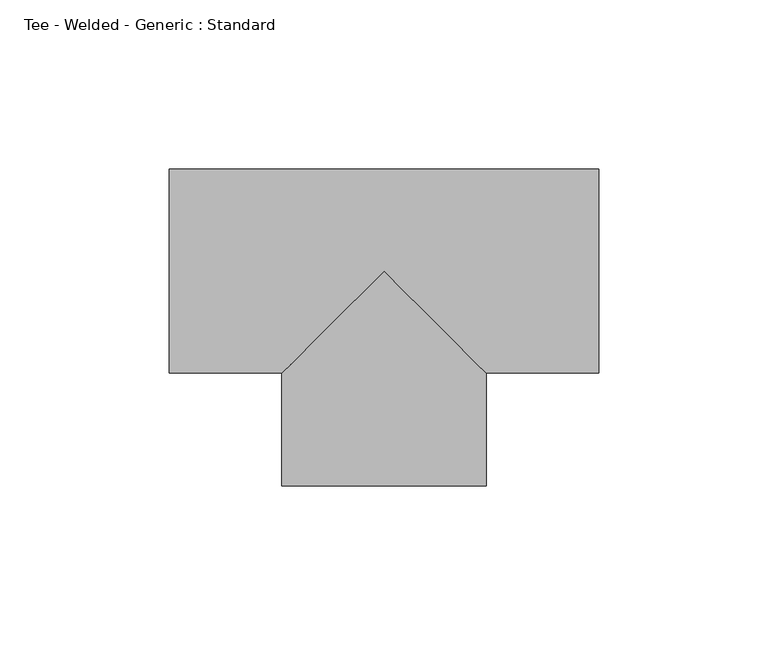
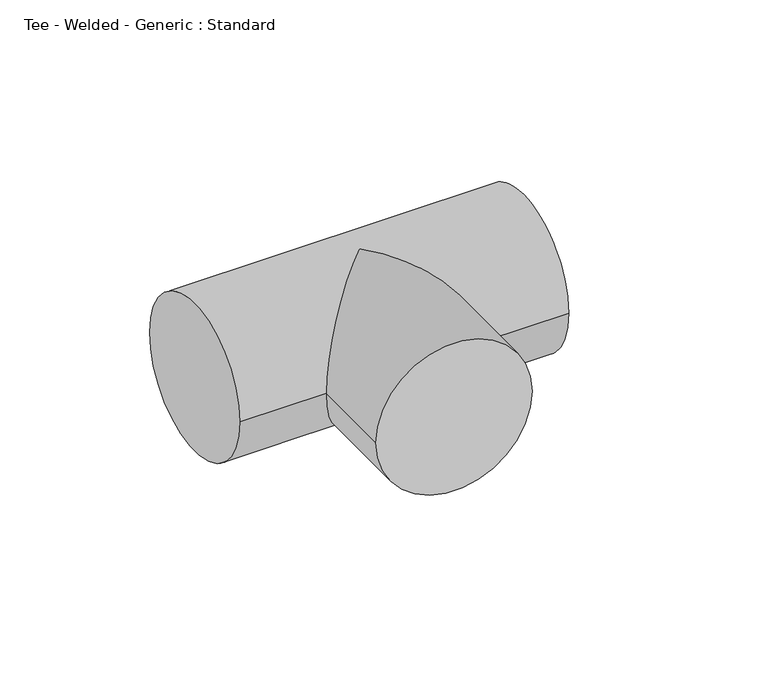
"""IFC4 building model written with IfcOpenShell, lengths in millimetres: pipe fitting geometry, Tee - Welded - Generic : Standard."""

import ifcopenshell
import ifcopenshell.guid

model = None  # the IFC model being written
_history = None  # IfcOwnerHistory: only IFC2X3 demands one
_inside = {}  # id of a spatial element -> (the spatial element, [elements in it])
_under = {}  # id of a project, library or spatial element -> (it, [spatial elements below it])
_declared = {}  # id of a project -> (the project, [libraries it declares])
_typed = {}  # id of a type object -> (the type object, [elements of that type])
_made_of = {}  # id of a material, layer set ... -> (it, [elements and type objects made of it])


def new_model(schema):
    """Start an empty IFC model of exactly this schema.

    Asked for "IFC4X3", IfcOpenShell would pick the latest addendum, in which some entities
    have other attributes; the version numbers below select the first issue.
    IFC2X3 requires an IfcOwnerHistory on every rooted entity: one is made here for all.
    """
    global model, _history
    if schema == "IFC4X3":
        model = ifcopenshell.file(schema_version=(4, 3, 0, 0))
    else:
        model = ifcopenshell.file(schema=schema)
    _inside.clear()
    _under.clear()
    _declared.clear()
    _typed.clear()
    _made_of.clear()
    _history = None
    if model.schema == "IFC2X3":
        org = make("IfcOrganization", Name="unknown")
        user = make(
            "IfcPersonAndOrganization",
            ThePerson=make("IfcPerson", FamilyName="unknown"),
            TheOrganization=org,
        )
        app = make(
            "IfcApplication",
            ApplicationDeveloper=org,
            Version="unknown",
            ApplicationFullName="unknown",
            ApplicationIdentifier="unknown",
        )
        _history = make(
            "IfcOwnerHistory",
            OwningUser=user,
            OwningApplication=app,
            ChangeAction="ADDED",
            CreationDate=0,
        )
    return model


def make(cls, **values):
    """One entity of the class cls with the attributes given. An attribute that is None is left unset."""
    return model.create_entity(
        cls, **{name: value for name, value in values.items() if value is not None}
    )


def rooted(cls, **values):
    """An entity with a GlobalId (a new one), such as an element, a storey or a relation."""
    return make(cls, GlobalId=ifcopenshell.guid.new(), OwnerHistory=_history, **values)


def si_unit(unit_type, name, prefix=None):
    """IfcSIUnit, for example si_unit("LENGTHUNIT", "METRE", prefix="MILLI")."""
    return make("IfcSIUnit", UnitType=unit_type, Prefix=prefix, Name=name)


def assignment(units):
    """IfcUnitAssignment: the units of a project."""
    return None if units is None else make("IfcUnitAssignment", Units=units)


def point(xyz):
    """IfcCartesianPoint."""
    return None if xyz is None else make("IfcCartesianPoint", Coordinates=xyz)


def direction(xyz):
    """IfcDirection."""
    return None if xyz is None else make("IfcDirection", DirectionRatios=xyz)


def frame(location, z_axis=None, x_axis=None):
    """IfcAxis2Placement3D, a coordinate frame: its origin and axes. An axis left out is left unset."""
    return make(
        "IfcAxis2Placement3D",
        Location=point(location),
        Axis=direction(z_axis),
        RefDirection=direction(x_axis),
    )


def origin():
    """The frame at (0, 0, 0) with its axes left unset."""
    return frame((0.0, 0.0, 0.0))


def place(relative_to, where):
    """IfcLocalPlacement: puts the frame where relative to a parent placement (None: the world)."""
    return make(
        "IfcLocalPlacement", PlacementRelTo=relative_to, RelativePlacement=where
    )


def context(
    kind, dimensions, precision=None, world=None, true_north=None, identifier=None
):
    """IfcGeometricRepresentationContext, for example the 3D "Model" context."""
    return make(
        "IfcGeometricRepresentationContext",
        ContextIdentifier=identifier,
        ContextType=kind,
        CoordinateSpaceDimension=dimensions,
        Precision=precision,
        WorldCoordinateSystem=world,
        TrueNorth=true_north,
    )


def project(units=None, contexts=None):
    """IfcProject with its units and contexts."""
    return rooted(
        "IfcProject",
        Name="project",
        RepresentationContexts=contexts,
        UnitsInContext=assignment(units),
    )


def spatial(cls, under=None, at=None, **own):
    """A site, building, storey or space (cls), placed at a placement, below another one or the project."""
    s = rooted(cls, ObjectPlacement=at, **own)
    if under is not None:
        _under.setdefault(under.id(), (under, []))[1].append(s)
    return s


def circle_curve(where, radius):
    """IfcCircle in the frame where."""
    return make("IfcCircle", Position=where, Radius=radius)


def ellipse_curve(where, semi_axis1, semi_axis2):
    """IfcEllipse in the frame where."""
    return make(
        "IfcEllipse", Position=where, SemiAxis1=semi_axis1, SemiAxis2=semi_axis2
    )


def shape(context_of_items, identifier, shape_type, items):
    """IfcShapeRepresentation: the items that make up one representation, for example the "Body"."""
    return make(
        "IfcShapeRepresentation",
        ContextOfItems=context_of_items,
        RepresentationIdentifier=identifier,
        RepresentationType=shape_type,
        Items=items,
    )


def source(mapping_origin, context_of_items, identifier, shape_type, items):
    """IfcRepresentationMap: a shape defined once, which mapped items show again and again."""
    return make(
        "IfcRepresentationMap",
        MappingOrigin=mapping_origin,
        MappedRepresentation=shape(context_of_items, identifier, shape_type, items),
    )


def transform(
    local_origin,
    x_axis=None,
    y_axis=None,
    z_axis=None,
    scale=None,
    scale2=None,
    scale3=None,
    uniform=True,
):
    """IfcCartesianTransformationOperator3D, or its non-uniform kind. x_axis, y_axis, z_axis: its Axis1, 2, 3."""
    if uniform:
        return make(
            "IfcCartesianTransformationOperator3D",
            Axis1=direction(x_axis),
            Axis2=direction(y_axis),
            LocalOrigin=point(local_origin),
            Scale=scale,
            Axis3=direction(z_axis),
        )
    return make(
        "IfcCartesianTransformationOperator3DnonUniform",
        Axis1=direction(x_axis),
        Axis2=direction(y_axis),
        LocalOrigin=point(local_origin),
        Scale=scale,
        Axis3=direction(z_axis),
        Scale2=scale2,
        Scale3=scale3,
    )


def mapped(mapping_source, mapping_target):
    """IfcMappedItem: shows the shape of a source again, moved by a transform."""
    return make(
        "IfcMappedItem", MappingSource=mapping_source, MappingTarget=mapping_target
    )


def made_of(thing, what):
    """Note that an element or type object is made of a material, layer set ...; save() writes the relation."""
    if what is not None:
        _made_of.setdefault(what.id(), (what, []))[1].append(thing)
    return thing


def element(
    cls,
    number,
    at=None,
    inside=None,
    cuts=None,
    type_object=None,
    material=None,
    context=None,
    identifier="Body",
    shape_type=None,
    held_by="IfcProductDefinitionShape",
    body=None,
    shapes=None,
    **own,
):
    """One element of the class cls, such as IfcWall. Its Tag is "e" and its number.

    at: its placement. inside: the storey or other place that contains it. cuts: it is an
    opening in that element (IfcRelVoidsElement). A single representation is given by context,
    identifier, shape_type and body (its items); several are given by shapes. held_by: the class
    of the entity that holds the representations. save() writes the other relations.
    """
    e = rooted(cls, Tag="e%d" % number, ObjectPlacement=at, **own)
    if body is not None:
        shapes = [shape(context, identifier, shape_type, body)]
    if shapes is not None:
        e.Representation = make(held_by, Representations=shapes)
    if inside is not None:
        _inside.setdefault(inside.id(), (inside, []))[1].append(e)
    if cuts is not None:
        rooted(
            "IfcRelVoidsElement", RelatingBuildingElement=cuts, RelatedOpeningElement=e
        )
    if type_object is not None:
        _typed.setdefault(type_object.id(), (type_object, []))[1].append(e)
    return made_of(e, material)


def aggregate(whole, parts):
    """IfcRelAggregates: a whole, such as a stair, and the parts it consists of."""
    return rooted("IfcRelAggregates", RelatingObject=whole, RelatedObjects=parts)


def save(model, path):
    """Write the relations noted so far, then the file.

    IfcRelAggregates (storeys below a building ...), IfcRelContainedInSpatialStructure (elements
    in a storey), IfcRelDefinesByType, IfcRelAssociatesMaterial and IfcRelDeclares: one each for
    every whole, place, type object, material and project.
    """
    for whole, parts in _under.values():
        aggregate(whole, parts)
    for where, things in _inside.values():
        rooted(
            "IfcRelContainedInSpatialStructure",
            RelatedElements=things,
            RelatingStructure=where,
        )
    for kind, things in _typed.values():
        rooted("IfcRelDefinesByType", RelatedObjects=things, RelatingType=kind)
    for what, things in _made_of.values():
        rooted("IfcRelAssociatesMaterial", RelatedObjects=things, RelatingMaterial=what)
    for by, libraries in _declared.values():
        rooted("IfcRelDeclares", RelatingContext=by, RelatedDefinitions=libraries)
    model.write(path)


def plane_surface(at):
    """IfcPlane: the flat surface through the origin of the frame at, square to its z axis."""
    return make("IfcPlane", Position=at)


def cylinder_surface(at, radius):
    """IfcCylindricalSurface: all points at the distance radius from the z axis of the frame at."""
    return make("IfcCylindricalSurface", Position=at, Radius=radius)


def advanced_brep(points, edges, surfaces, faces):
    """IfcAdvancedBrep: a solid bounded by faces that lie on surfaces and meet in shared edges.

    An edge is (start, end): straight between two places in points (the first is 0);
    or (start, end, curve); or (start, end, curve, False) where it runs against its curve.
    A face is (place in surfaces, loops), or (place, loops, False) where it looks against
    its surface's normal. A loop lists edges by number (the first is 1), with a minus sign
    where the edge is run from its end to its start. The first loop is the outer one.
    """
    corners = [point(p) for p in points]
    vertices = [make("IfcVertexPoint", VertexGeometry=c) for c in corners]
    made = []
    for start, end, *more in edges:
        made.append(
            make(
                "IfcEdgeCurve",
                EdgeStart=vertices[start],
                EdgeEnd=vertices[end],
                EdgeGeometry=more[0] if more else make("IfcPolyline", Points=[corners[start], corners[end]]),
                SameSense=more[1] if len(more) > 1 else True,
            )
        )
    hull = []
    for where, loops, *sense in faces:
        bounds = []
        for j, loop in enumerate(loops):
            ring = [make("IfcOrientedEdge", EdgeElement=made[abs(k) - 1], Orientation=k > 0) for k in loop]
            bounds.append(
                make(
                    "IfcFaceOuterBound" if j == 0 else "IfcFaceBound",
                    Bound=make("IfcEdgeLoop", EdgeList=ring),
                    Orientation=True,
                )
            )
        hull.append(make("IfcAdvancedFace", Bounds=bounds, FaceSurface=surfaces[where], SameSense=sense[0] if sense else True))
    return make("IfcAdvancedBrep", Outer=make("IfcClosedShell", CfsFaces=hull))


def tee_welded_generic_standard_0b96d7ca(model_context):
    return source(origin(), model_context, "Body", "AdvancedBrep", [
        advanced_brep(
        [(-63.5, -30.1625, 0.0), (-63.5, 30.1625, 0.0), (63.5, -30.1625, 0.0), (63.5, 30.1625, 0.0), (-30.1625515, -30.1625, 0.0), (0.0, 0.0, 30.1625), (30.1624485, -30.1625, 0.0), (0.0, 0.0, -30.1625), (-30.1626084, -63.4999485, 0.0), (30.1623916, -63.5000515, 0.0)],
        [
            (0, 1, circle_curve(frame((-63.5, 0.0, 0.0), z_axis=(-1.0, 0.0, 0.0), x_axis=(0.0, 1.0, 0.0)), 30.1625)),
            (1, 0, circle_curve(frame((-63.5, 0.0, 0.0), z_axis=(-1.0, 0.0, 0.0), x_axis=(0.0, 1.0, 0.0)), 30.1625)),
            (2, 3, circle_curve(frame((63.5, 0.0, 0.0), z_axis=(1.0, 0.0, 0.0), x_axis=(0.0, 1.0, 0.0)), 30.1625)),
            (3, 2, circle_curve(frame((63.5, 0.0, 0.0), z_axis=(1.0, 0.0, 0.0), x_axis=(0.0, 1.0, 0.0)), 30.1625)),
            (0, 4),
            (4, 5, ellipse_curve(frame((0.0, 0.0, 0.0), z_axis=(-0.7071061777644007, 0.7071073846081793, 0.0), x_axis=(-0.7071073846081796, -0.7071061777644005, 0.0)), 42.656253, 30.1625)),
            (5, 6, ellipse_curve(frame((0.0, 0.0, 0.0), z_axis=(0.7071073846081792, 0.7071061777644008, 0.0), x_axis=(-0.7071061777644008, 0.7071073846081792, 0.0)), 42.6561802, 30.1625)),
            (6, 2),
            (3, 1),
            (6, 7, ellipse_curve(frame((0.0, 0.0, 0.0), z_axis=(0.7071073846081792, 0.7071061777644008, 0.0), x_axis=(-0.7071061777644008, 0.7071073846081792, 0.0)), 42.6561802, 30.1625)),
            (7, 4, ellipse_curve(frame((0.0, 0.0, 0.0), z_axis=(-0.7071061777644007, 0.7071073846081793, 0.0), x_axis=(-0.7071073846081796, -0.7071061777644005, 0.0)), 42.656253, 30.1625)),
            (8, 9, circle_curve(frame((-0.0001084, -63.5, 0.0), z_axis=(-1.7067348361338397e-06, -0.9999999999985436, 0.0), x_axis=(0.9999999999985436, -1.7067348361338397e-06, 0.0)), 30.1625)),
            (9, 8, circle_curve(frame((-0.0001084, -63.5, 0.0), z_axis=(-1.7067348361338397e-06, -0.9999999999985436, 0.0), x_axis=(0.9999999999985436, -1.7067348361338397e-06, 0.0)), 30.1625)),
            (9, 6),
            (4, 8),
        ],
        [
            plane_surface(frame((-63.5, 0.0, 0.0), z_axis=(-1.0, 0.0, 0.0), x_axis=(0.0, 0.0, 1.0))),
            plane_surface(frame((63.5, 0.0, 0.0), z_axis=(1.0, 0.0, 0.0), x_axis=(0.0, 0.0, 1.0))),
            cylinder_surface(frame((-63.5, 0.0, 0.0), z_axis=(-1.0, 0.0, 0.0), x_axis=(0.0, 1.0, 0.0)), 30.1625),
            plane_surface(frame((-0.0001084, -63.5, 0.0), z_axis=(-1.7067348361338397e-06, -0.9999999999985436, 0.0), x_axis=(0.0, 0.0, 1.0))),
            cylinder_surface(frame((0.0, 0.0, 0.0), z_axis=(1.7067348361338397e-06, 0.9999999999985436, 0.0), x_axis=(0.9999999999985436, -1.7067348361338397e-06, 0.0)), 30.1625),
        ],
        [
            (0, [[1, 2]]),
            (1, [[3, 4]]),
            (2, [[-1, 5, 6, 7, 8, -4, 9]]),
            (2, [[-2, -9, -3, -8, 10, 11, -5]]),
            (3, [[12, 13]]),
            (4, [[-13, 14, -7, -6, 15]]),
            (4, [[-12, -15, -11, -10, -14]]),
        ],
    ),
    ])


if __name__ == "__main__":
    model = new_model("IFC4")
    model_context = context("Model", 3, world=origin())
    ifc_project = project(units=[si_unit("LENGTHUNIT", "METRE", prefix="MILLI")], contexts=[model_context])
    site = spatial("IfcSite", under=ifc_project)
    building = spatial("IfcBuilding", under=site)
    placement = place(None, origin())
    tee_welded_generic_standard_shape = tee_welded_generic_standard_0b96d7ca(model_context)
    element("IfcPipeFitting", 1, ObjectType="Tee - Welded - Generic : Standard", at=placement, inside=building, context=model_context, shape_type="MappedRepresentation", body=[
        mapped(tee_welded_generic_standard_shape, transform((0.0, 0.0, 0.0), x_axis=(1.0, 0.0, 0.0), y_axis=(0.0, 1.0, 0.0), z_axis=(0.0, 0.0, 1.0))),
    ])
    save(model, "model.ifc")
